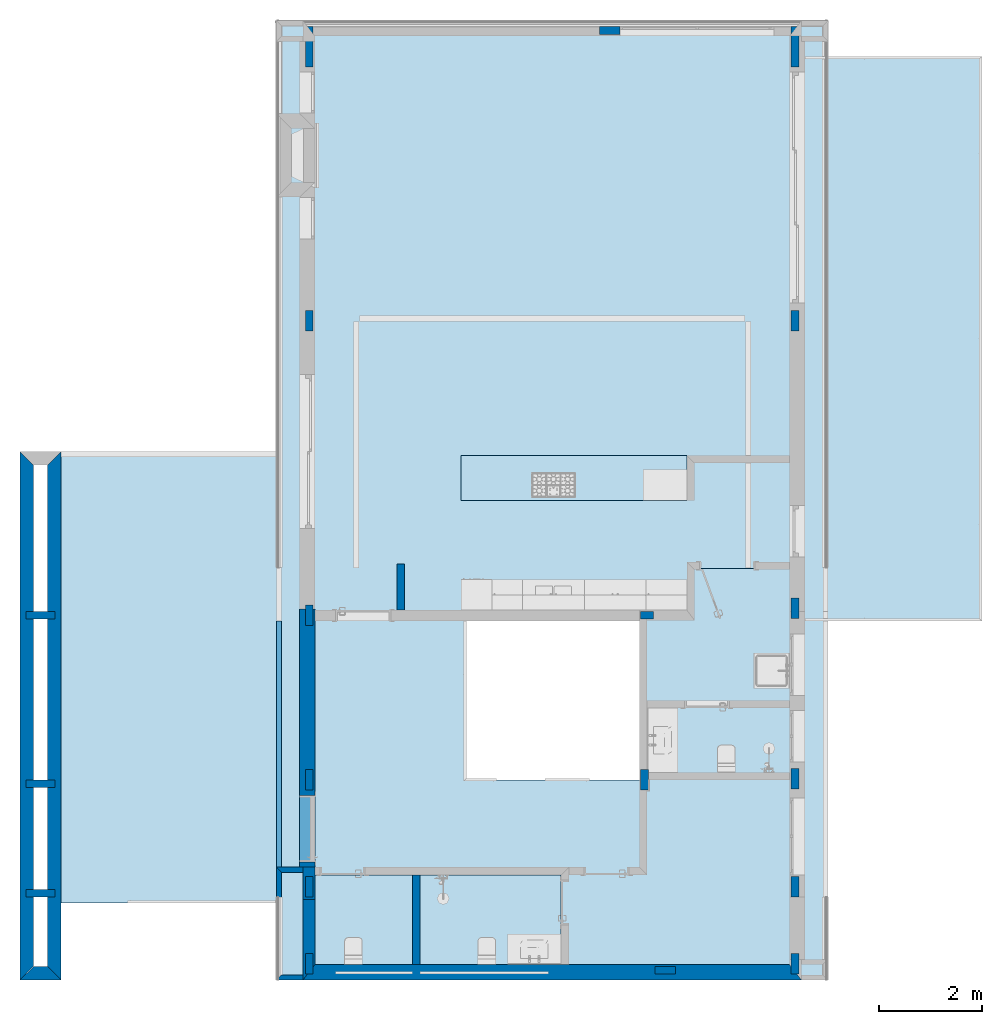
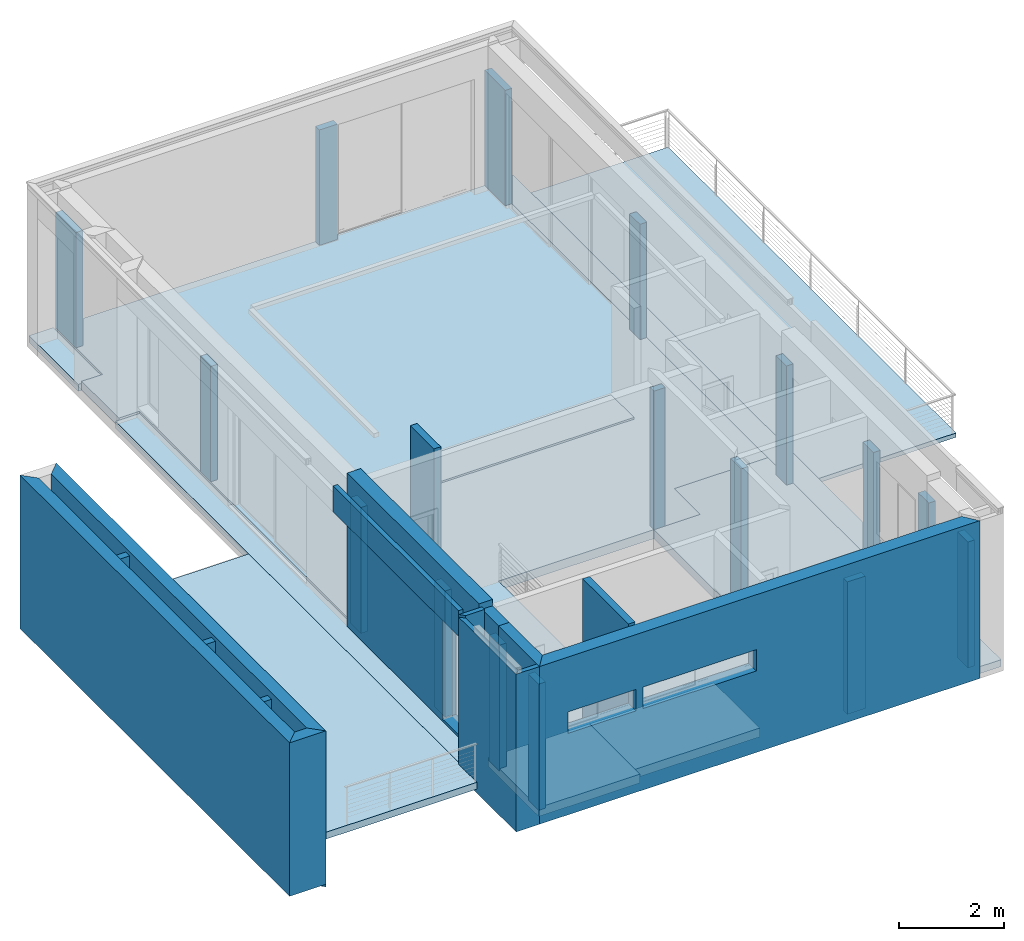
# One storey, part 1 of 26: 19 columns, 13 walls, 10 slabs, 3 openings.
"""IFC2X3 building model written with IfcOpenShell, lengths in millimetres."""

from ifc_helpers import new_model, entity, si_unit, converted_unit, money_unit, direction, frame, origin_with_axes, origin_2d_with_axis, place, context, subcontext, project, spatial, polyline, rectangle, outline, extrude, material, layer, layer_set, layer_usage, type_object, element, save


model = new_model("IFC2X3")

# Units and contexts
model_context = context("Model", 3, precision=1e-05, world=origin_with_axes(), true_north=direction((0.0, 1.0)))
body_context = subcontext(model_context, "Body", "Model", "MODEL_VIEW")
ifc_project = project(units=[si_unit("LENGTHUNIT", "METRE", prefix="MILLI"), si_unit("AREAUNIT", "SQUARE_METRE"), si_unit("VOLUMEUNIT", "CUBIC_METRE"), converted_unit("PLANEANGLEUNIT", "DEGREE", entity("IfcPlaneAngleMeasure", 0.0174532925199), si_unit("PLANEANGLEUNIT", "RADIAN"), dimensions=[0, 0, 0, 0, 0, 0, 0]), si_unit("SOLIDANGLEUNIT", "STERADIAN"), money_unit("USD"), converted_unit("TIMEUNIT", "Year", entity("IfcTimeMeasure", 31556926.0), si_unit("TIMEUNIT", "SECOND"), dimensions=[0, 0, 0, 0, 0, 0, 0]), si_unit("MASSUNIT", "GRAM"), si_unit("THERMODYNAMICTEMPERATUREUNIT", "DEGREE_CELSIUS"), si_unit("LUMINOUSINTENSITYUNIT", "LUMEN")], contexts=[model_context])

# Site, building, storey
site_placement = place(None, origin_with_axes())
site = spatial("IfcSite", under=ifc_project, at=site_placement, Name="Grove Residential", CompositionType="ELEMENT")
building_placement = place(site_placement, origin_with_axes())
building = spatial("IfcBuilding", under=site, at=building_placement, Name="Building", CompositionType="ELEMENT")
storey_placement = place(building_placement, origin_with_axes())
storey = spatial("IfcBuildingStorey", under=building, at=storey_placement, Name="Ground Floor", CompositionType="ELEMENT", Elevation=0.0)

# Columns
ifc_material_1 = material(Name="Concrete - Structural")
column_type_1 = type_object("IfcColumnType", Name="Concrete - Structural 150 x 400", PredefinedType="NOTDEFINED")
for number, where, z_axis, x_axis, name in (
    (1, (10109.9999055, 165.0, -60.0), (0.0, 0.0, 1.0), (1.0, 0.0, 0.0), "CRE - 001"),
    (2, (640.000123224, 3749.99996722, -60.0), (0.0, 0.0, 1.0), (1.0, 0.0, 0.0), "CRE - 001"),
):
    element("IfcColumn", number, at=place(storey_placement, frame(where, z_axis=z_axis, x_axis=x_axis)), inside=storey, type_object=column_type_1, material=ifc_material_1, Name=name, ObjectType="Concrete - Structural 150 x 400", context=body_context, shape_type="SweptSolid", body=[
        extrude(rectangle(XDim=150.0, YDim=400.0, at=origin_2d_with_axis()), origin_with_axes(), (0.0, 0.0, 1.0), 2940.0),
    ])
column_1_placement = place(storey_placement, frame((10109.9999055, 3774.99996722, -60.0), z_axis=(0.0, 0.0, 1.0), x_axis=(1.0, 0.0, 0.0)))
element("IfcColumn", 3, at=column_1_placement, inside=storey, type_object=column_type_1, material=ifc_material_1, Name="CRE - 001", ObjectType="Concrete - Structural 150 x 400", context=body_context, shape_type="SweptSolid", body=[
    extrude(rectangle(XDim=150.0, YDim=400.0, at=origin_2d_with_axis()), origin_with_axes(), (0.0, 0.0, 1.0), 2840.0),
])
for number, where, z_axis, x_axis, name in (
    (4, (639.999984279, 12700.0, 0.0), (0.0, 0.0, 1.0), (1.0, 0.0, 0.0), "CRE - 001"),
    (5, (10109.9999055, 12700.0, 0.0), (0.0, 0.0, 1.0), (1.0, 0.0, 0.0), "CRE - 001"),
):
    element("IfcColumn", number, at=place(storey_placement, frame(where, z_axis=z_axis, x_axis=x_axis)), inside=storey, type_object=column_type_1, material=ifc_material_1, Name=name, ObjectType="Concrete - Structural 150 x 400", context=body_context, shape_type="SweptSolid", body=[
        extrude(rectangle(XDim=150.0, YDim=400.0, at=origin_2d_with_axis()), origin_with_axes(), (0.0, 0.0, 1.0), 2690.0),
    ])
for number, where, z_axis, x_axis, name in (
    (6, (639.999984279, 1664.99992309, -60.0), (0.0, 0.0, 1.0), (1.0, 0.0, 0.0), "CRE - 001"),
    (7, (10109.9999055, 1664.99992309, -60.0), (0.0, 0.0, 1.0), (1.0, 0.0, 0.0), "CRE - 001"),
    (8, (639.99999327, 6960.0, -60.0), (0.0, 0.0, 1.0), (1.0, 0.0, 0.0), "CRE - 001"),
):
    element("IfcColumn", number, at=place(storey_placement, frame(where, z_axis=z_axis, x_axis=x_axis)), inside=storey, type_object=column_type_1, material=ifc_material_1, Name=name, ObjectType="Concrete - Structural 150 x 400", context=body_context, shape_type="SweptSolid", body=[
        extrude(rectangle(XDim=150.0, YDim=400.0, at=origin_2d_with_axis()), origin_with_axes(), (0.0, 0.0, 1.0), 2940.0),
    ])
column_2_placement = place(storey_placement, frame((10109.9999055, 7100.0, -60.0), z_axis=(0.0, 0.0, 1.0), x_axis=(1.0, 0.0, 0.0)))
element("IfcColumn", 9, at=column_2_placement, inside=storey, type_object=column_type_1, material=ifc_material_1, Name="CRE - 001", ObjectType="Concrete - Structural 150 x 400", context=body_context, shape_type="SweptSolid", body=[
    extrude(rectangle(XDim=150.0, YDim=400.0, at=origin_2d_with_axis()), origin_with_axes(), (0.0, 0.0, 1.0), 2840.0),
])
column_3_placement = place(storey_placement, frame((7175.0, 3749.99996722, 0.0), z_axis=(0.0, 0.0, 1.0), x_axis=(1.0, 0.0, 0.0)))
element("IfcColumn", 10, at=column_3_placement, inside=storey, type_object=column_type_1, material=ifc_material_1, Name="CRE - 001", ObjectType="Concrete - Structural 150 x 400", context=body_context, shape_type="SweptSolid", body=[
    extrude(rectangle(XDim=150.0, YDim=400.0, at=origin_2d_with_axis()), origin_with_axes(), (0.0, 0.0, 1.0), 3440.0),
])
column_4_placement = place(storey_placement, frame((639.99993667, 165.0, -60.0), z_axis=(0.0, 0.0, 1.0), x_axis=(1.0, 0.0, 0.0)))
element("IfcColumn", 11, at=column_4_placement, inside=storey, type_object=column_type_1, material=ifc_material_1, Name="CRE - 001", ObjectType="Concrete - Structural 150 x 400", context=body_context, shape_type="SweptSolid", body=[
    extrude(rectangle(XDim=150.0, YDim=400.0, at=origin_2d_with_axis()), origin_with_axes(), (0.0, 0.0, 1.0), 2940.0),
])
column_type_2 = type_object("IfcColumnType", Name="Concrete - Structural 570 x 150", PredefinedType="NOTDEFINED")
column_5_placement = place(storey_placement, frame((-4600.0, 6960.0, 0.0), z_axis=(0.0, 0.0, 1.0), x_axis=(1.0, 0.0, 0.0)))
element("IfcColumn", 12, at=column_5_placement, inside=storey, type_object=column_type_2, material=ifc_material_1, Name="CRE - 001", ObjectType="Concrete - Structural 570 x 150", context=body_context, shape_type="SweptSolid", body=[
    extrude(rectangle(XDim=570.0, YDim=150.0, at=origin_2d_with_axis()), origin_with_axes(), (0.0, 0.0, 1.0), 3440.0),
])
column_6_placement = place(storey_placement, frame((-4600.0, 1539.99992309, 0.0), z_axis=(0.0, 0.0, 1.0), x_axis=(1.0, 0.0, 0.0)))
element("IfcColumn", 13, at=column_6_placement, inside=storey, type_object=column_type_2, material=ifc_material_1, Name="CRE - 001", ObjectType="Concrete - Structural 570 x 150", context=body_context, shape_type="SweptSolid", body=[
    extrude(rectangle(XDim=570.0, YDim=150.0, at=origin_2d_with_axis()), origin_with_axes(), (0.0, 0.0, 1.0), 3380.0),
])
column_7_placement = place(storey_placement, frame((-4600.0, 3674.99996722, 0.0), z_axis=(0.0, 0.0, 1.0), x_axis=(1.0, 0.0, 0.0)))
element("IfcColumn", 14, at=column_7_placement, inside=storey, type_object=column_type_2, material=ifc_material_1, Name="CRE - 001", ObjectType="Concrete - Structural 570 x 150", context=body_context, shape_type="SweptSolid", body=[
    extrude(rectangle(XDim=570.0, YDim=150.0, at=origin_2d_with_axis()), origin_with_axes(), (0.0, 0.0, 1.0), 3440.0),
])
column_type_3 = type_object("IfcColumnType", Name="Concrete - Structural 150 x 785", PredefinedType="NOTDEFINED")
for number, where, z_axis, x_axis, name in (
    (15, (639.999984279, 18042.5, 0.0), (0.0, 0.0, 1.0), (1.0, 0.0, 0.0), "CRE - 001"),
    (16, (10109.9999055, 18042.5, 0.0), (0.0, 0.0, 1.0), (1.0, 0.0, 0.0), "CRE - 001"),
):
    element("IfcColumn", number, at=place(storey_placement, frame(where, z_axis=z_axis, x_axis=x_axis)), inside=storey, type_object=column_type_3, material=ifc_material_1, Name=name, ObjectType="Concrete - Structural 150 x 785", context=body_context, shape_type="SweptSolid", body=[
        extrude(rectangle(XDim=150.0, YDim=785.0, at=origin_2d_with_axis()), origin_with_axes(), (0.0, 0.0, 1.0), 2690.0),
    ])
column_type_4 = type_object("IfcColumnType", Name="Concrete - Structural 250 x 150", PredefinedType="NOTDEFINED")
column_8_placement = place(storey_placement, frame((7225.0, 6960.00013886, 0.0), z_axis=(0.0, 0.0, 1.0), x_axis=(1.0, 0.0, 0.0)))
element("IfcColumn", 17, at=column_8_placement, inside=storey, type_object=column_type_4, material=ifc_material_1, Name="CRE - 001", ObjectType="Concrete - Structural 250 x 150", context=body_context, shape_type="SweptSolid", body=[
    extrude(rectangle(XDim=250.0, YDim=150.0, at=origin_2d_with_axis()), origin_with_axes(), (0.0, 0.0, 1.0), 3230.0),
])
column_type_5 = type_object("IfcColumnType", Name="Concrete - Structural 400 x 150", PredefinedType="NOTDEFINED")
column_9_placement = place(storey_placement, frame((7575.0, 40.0, -210.0), z_axis=(0.0, 0.0, 1.0), x_axis=(1.0, 0.0, 0.0)))
element("IfcColumn", 18, at=column_9_placement, inside=storey, type_object=column_type_5, material=ifc_material_1, Name="CRE - 001", ObjectType="Concrete - Structural 400 x 150", context=body_context, shape_type="SweptSolid", body=[
    extrude(rectangle(XDim=400.0, YDim=150.0, at=origin_2d_with_axis()), origin_with_axes(), (0.0, 0.0, 1.0), 3090.0),
])
column_10_placement = place(storey_placement, frame((6500.0, 18360.0, -60.0), z_axis=(0.0, 0.0, 1.0), x_axis=(1.0, 0.0, 0.0)))
element("IfcColumn", 19, at=column_10_placement, inside=storey, type_object=column_type_5, material=ifc_material_1, Name="CRE - 001", ObjectType="Concrete - Structural 400 x 150", context=body_context, shape_type="SweptSolid", body=[
    extrude(rectangle(XDim=400.0, YDim=150.0, at=origin_2d_with_axis()), origin_with_axes(), (0.0, 0.0, 1.0), 2750.0),
])

# Slabs
ifc_material_2 = material(Name="Floor Tiles")
ifc_layer_1 = layer(ifc_material_2, 20.0, ventilated="UNKNOWN")
ifc_material_3 = material(Name="Screed")
ifc_layer_2 = layer(ifc_material_3, 40.0, ventilated="UNKNOWN")
ifc_layer_3 = layer(ifc_material_1, 150.0, ventilated="UNKNOWN")
ifc_layer_set_1 = layer_set([ifc_layer_1, ifc_layer_2, ifc_layer_3], Name="IFS - 008")
ifc_layer_usage_1 = layer_usage(ifc_layer_set_1, "AXIS3", "NEGATIVE", 210.0)
slab_type_1 = type_object("IfcSlabType", Name="IFS - 008 210", PredefinedType="FLOOR")
slab_1_placement = place(storey_placement, frame((564.99993667, -35.0, 0.0), z_axis=(0.0, 0.0, 1.0), x_axis=(1.0, 0.0, 0.0)))
element("IfcSlab", 20, at=slab_1_placement, inside=storey, type_object=slab_type_1, material=ifc_layer_usage_1, Name="SLA - 001", PredefinedType="FLOOR", context=body_context, shape_type="SweptSolid", body=[
    extrude(outline(polyline([(0.0, 0.0), (2235.00006333, 0.0), (2235.00006333, 1935.0), (0.0, 1935.0), (0.0, 0.0)])), frame((0.0, 0.0, -210.0), z_axis=(0.0, 0.0, 1.0), x_axis=(1.0, 0.0, 0.0)), (0.0, 0.0, 1.0), 210.0),
])
ifc_layer_usage_2 = layer_usage(ifc_layer_set_1, "AXIS3", "NEGATIVE", 210.0)
slab_2_placement = place(storey_placement, frame((2800.0, 150.0, 0.0), z_axis=(0.0, 0.0, 1.0), x_axis=(1.0, 0.0, 0.0)))
element("IfcSlab", 21, at=slab_2_placement, inside=storey, type_object=slab_type_1, material=ifc_layer_usage_2, Name="SLA - 001", PredefinedType="FLOOR", context=body_context, shape_type="SweptSolid", body=[
    extrude(outline(polyline([(0.0, 0.0), (2750.0, 0.0), (2750.0, 1750.0), (0.0, 1750.0), (0.0, 0.0)])), frame((0.0, 0.0, -210.0), z_axis=(0.0, 0.0, 1.0), x_axis=(1.0, 0.0, 0.0)), (0.0, 0.0, 1.0), 210.0),
])
ifc_layer_usage_3 = layer_usage(ifc_layer_set_1, "AXIS3", "NEGATIVE", 210.0)
slab_3_placement = place(storey_placement, frame((7100.0, 3875.0, 0.0), z_axis=(0.0, 0.0, 1.0), x_axis=(1.0, 0.0, 0.0)))
element("IfcSlab", 22, at=slab_3_placement, inside=storey, type_object=slab_type_1, material=ifc_layer_usage_3, Name="SLA - 001", PredefinedType="FLOOR", context=body_context, shape_type="SweptSolid", body=[
    extrude(outline(polyline([(0.0, 0.0), (3085.0, 0.0), (3085.0, 4000.0), (1025.00001609, 4000.0), (1024.99999986, 3010.00004387), (0.0, 3009.99999699), (0.0, 0.0)])), frame((0.0, 0.0, -210.0), z_axis=(0.0, 0.0, 1.0), x_axis=(1.0, 0.0, 0.0)), (0.0, 0.0, 1.0), 210.0),
])
ifc_material_4 = material(Name="Polished Concrete")
ifc_layer_4 = layer(ifc_material_4, 10.0, ventilated="UNKNOWN")
ifc_layer_5 = layer(ifc_material_3, 50.0, ventilated="UNKNOWN")
ifc_layer_6 = layer(ifc_material_1, 150.0, ventilated="UNKNOWN")
ifc_layer_set_2 = layer_set([ifc_layer_4, ifc_layer_5, ifc_layer_6], Name="IFS - 006")
ifc_layer_usage_4 = layer_usage(ifc_layer_set_2, "AXIS3", "NEGATIVE", 210.0)
slab_type_2 = type_object("IfcSlabType", Name="IFS - 006 210", PredefinedType="FLOOR")
slab_4_placement = place(storey_placement, frame((564.999940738, 16634.9997556, 0.0), z_axis=(0.0, 0.0, 1.0), x_axis=(1.0, 0.0, 0.0)))
element("IfcSlab", 23, at=slab_4_placement, inside=storey, type_object=slab_type_2, material=ifc_layer_usage_4, Name="SLA - 001", PredefinedType="FLOOR", context=body_context, shape_type="SweptSolid", body=[
    extrude(outline(polyline([(0.0, 0.0), (-459.999940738, 0.0), (-459.999940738, -1419.99957937), (0.0, -1419.99957937), (0.0, -14734.9998711), (4985.00033847, -14734.9998711), (4985.00033847, -16669.9996459), (9619.99989485, -16669.9996459), (9619.99989485, -12759.9997633), (6535.00010609, -12759.9997633), (6535.00010609, -12884.9997884), (3109.99997501, -12884.9997884), (3109.99997501, -9749.99975559), (7560.00005926, -9749.99975559), (7560.00005926, -8759.99975559), (9619.99989485, -8759.99975559), (9619.99989485, 1800.00012967), (0.0, 1800.00012967), (0.0, 0.0)])), frame((0.0, 0.0, -210.0), z_axis=(0.0, 0.0, 1.0), x_axis=(1.0, 0.0, 0.0)), (0.0, 0.0, 1.0), 210.0),
])
ifc_layer_7 = layer(ifc_material_4, 10.0, ventilated="UNKNOWN")
ifc_layer_8 = layer(ifc_material_3, 50.0, ventilated="UNKNOWN")
ifc_layer_9 = layer(ifc_material_1, 100.0, ventilated="UNKNOWN")
ifc_layer_set_3 = layer_set([ifc_layer_7, ifc_layer_8, ifc_layer_9], Name="IFS - 007")
ifc_layer_usage_5 = layer_usage(ifc_layer_set_3, "AXIS3", "NEGATIVE", 160.0)
slab_type_3 = type_object("IfcSlabType", Name="IFS - 007 160", PredefinedType="FLOOR")
slab_5_placement = place(storey_placement, frame((29.9999936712, 10120.0000894, -50.0), z_axis=(0.0, 0.0, 1.0), x_axis=(1.0, 0.0, 0.0)))
element("IfcSlab", 24, at=slab_5_placement, inside=storey, type_object=slab_type_3, material=ifc_layer_usage_5, Name="SLA - 001", PredefinedType="FLOOR", context=body_context, shape_type="SweptSolid", body=[
    extrude(outline(polyline([(0.0, 0.0), (-4229.99999367, 0.0), (-4229.99999367, -6270.00008941), (-4494.99999367, -6270.00008941), (-4494.99999367, -8769.99999255), (0.000226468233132, -8769.99999255), (0.0, 0.0)])), frame((0.0, 0.0, -160.0), z_axis=(0.0, 0.0, 1.0), x_axis=(1.0, 0.0, 0.0)), (0.0, 0.0, 1.0), 160.0),
])
ifc_layer_usage_6 = layer_usage(ifc_layer_set_3, "AXIS3", "NEGATIVE", 160.0)
slab_6_placement = place(storey_placement, frame((30.0, 18520.0, -50.0), z_axis=(0.0, 0.0, 1.0), x_axis=(1.0, 0.0, 0.0)))
element("IfcSlab", 25, at=slab_6_placement, inside=storey, type_object=slab_type_3, material=ifc_layer_usage_6, Name="SLA - 001", PredefinedType="FLOOR", context=body_context, shape_type="SweptSolid", body=[
    extrude(outline(polyline([(0.0, 0.0), (0.0, -1885.0), (534.999983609, -1885.0), (534.999983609, 0.0), (0.0, 0.0)])), frame((0.0, 0.0, -160.0), z_axis=(0.0, 0.0, 1.0), x_axis=(1.0, 0.0, 0.0)), (0.0, 0.0, 1.0), 160.0),
])
ifc_layer_usage_7 = layer_usage(ifc_layer_set_3, "AXIS3", "NEGATIVE", 160.0)
slab_7_placement = place(storey_placement, frame((10720.0, 18520.0, -50.0), z_axis=(0.0, 0.0, 1.0), x_axis=(1.0, 0.0, 0.0)))
element("IfcSlab", 26, at=slab_7_placement, inside=storey, type_object=slab_type_3, material=ifc_layer_usage_7, Name="SLA - 001", PredefinedType="FLOOR", context=body_context, shape_type="SweptSolid", body=[
    extrude(outline(polyline([(0.0, 0.0), (-485.0, 0.0), (-485.0, -85.0), (-535.0, -85.0), (-535.0, -18640.0), (0.0, -18640.0), (0.0, 0.0)])), frame((0.0, 0.0, -160.0), z_axis=(0.0, 0.0, 1.0), x_axis=(1.0, 0.0, 0.0)), (0.0, 0.0, 1.0), 160.0),
])
ifc_layer_usage_8 = layer_usage(ifc_layer_set_3, "AXIS3", "NEGATIVE", 160.0)
slab_8_placement = place(storey_placement, frame((564.999945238, 15215.0, -50.0), z_axis=(0.0, 0.0, 1.0), x_axis=(1.0, 0.0, 0.0)))
element("IfcSlab", 27, at=slab_8_placement, inside=storey, type_object=slab_type_3, material=ifc_layer_usage_8, Name="SLA - 001", PredefinedType="FLOOR", context=body_context, shape_type="SweptSolid", body=[
    extrude(outline(polyline([(0.0, 0.0), (-534.999945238, 0.0), (-534.999945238, -15335.0), (0.0, -15335.0), (0.0, 0.0)])), frame((0.0, 0.0, -160.0), z_axis=(0.0, 0.0, 1.0), x_axis=(1.0, 0.0, 0.0)), (0.0, 0.0, 1.0), 160.0),
])
ifc_material_5 = material(Name="Timber - Floor")
ifc_layer_10 = layer(ifc_material_5, 100.0, ventilated="UNKNOWN")
ifc_layer_set_4 = layer_set([ifc_layer_10], Name="Timber - Floor 100")
ifc_layer_usage_9 = layer_usage(ifc_layer_set_4, "AXIS3", "NEGATIVE", 100.0)
slab_type_4 = type_object("IfcSlabType", Name="Timber - Floor 100", PredefinedType="FLOOR")
slab_9_placement = place(storey_placement, frame((10720.0, 17850.0, -50.0), z_axis=(0.0, 0.0, 1.0), x_axis=(1.0, 0.0, 0.0)))
element("IfcSlab", 28, at=slab_9_placement, inside=storey, type_object=slab_type_4, material=ifc_layer_usage_9, Name="SLA - 001", PredefinedType="FLOOR", context=body_context, shape_type="SweptSolid", body=[
    extrude(outline(polyline([(0.0, 0.0), (0.0, -11000.0), (3030.0, -11000.0), (3030.0, 0.0), (0.0, 0.0)])), frame((0.0, 0.0, -100.0), z_axis=(0.0, 0.0, 1.0), x_axis=(1.0, 0.0, 0.0)), (0.0, 0.0, 1.0), 100.0),
])
ifc_material_6 = material(Name="Stone - Finish")
ifc_layer_11 = layer(ifc_material_6, 40.0, ventilated="UNKNOWN")
ifc_layer_set_5 = layer_set([ifc_layer_11], Name="Stone - Finish 40")
ifc_layer_usage_10 = layer_usage(ifc_layer_set_5, "AXIS3", "NEGATIVE", 40.0)
slab_type_5 = type_object("IfcSlabType", Name="Stone - Finish 40", PredefinedType="FLOOR")
slab_10_placement = place(storey_placement, frame((8000.0, 10075.0, 900.0), z_axis=(0.0, 0.0, 1.0), x_axis=(1.0, 0.0, 0.0)))
element("IfcSlab", 29, at=slab_10_placement, inside=storey, type_object=slab_type_5, material=ifc_layer_usage_10, Name="SLA - 001", PredefinedType="FLOOR", context=body_context, shape_type="SweptSolid", body=[
    extrude(outline(polyline([(0.0, 0.0), (-4400.0, 0.0), (-4400.0, -875.0), (0.0, -875.0), (0.0, 0.0)])), frame((0.0, 0.0, -40.0), z_axis=(0.0, 0.0, 1.0), x_axis=(1.0, 0.0, 0.0)), (0.0, 0.0, 1.0), 40.0),
])

# Walls
ifc_material_7 = material(Name="Wall Tiles")
ifc_layer_12 = layer(ifc_material_7, 12.5, ventilated="UNKNOWN")
ifc_material_8 = material(Name="Gypsum Plasterboard - Waterproof")
ifc_layer_13 = layer(ifc_material_8, 12.5, ventilated="UNKNOWN")
ifc_material_9 = material(Name="Air Space - Frame")
ifc_layer_14 = layer(ifc_material_9, 100.0, ventilated="UNKNOWN")
ifc_layer_15 = layer(ifc_material_8, 12.5, ventilated="UNKNOWN")
ifc_layer_16 = layer(ifc_material_7, 12.5, ventilated="UNKNOWN")
ifc_layer_set_6 = layer_set([ifc_layer_12, ifc_layer_13, ifc_layer_14, ifc_layer_15, ifc_layer_16], Name="IWF-006")
ifc_layer_usage_11 = layer_usage(ifc_layer_set_6, "AXIS2", "POSITIVE", -150.0)
wall_type_1 = type_object("IfcWallType", Name="IWF-006 150", PredefinedType="NOTDEFINED")
wall_1_placement = place(storey_placement, frame((2500.0, 7960.0, 0.0), z_axis=(0.0, 0.0, 1.0), x_axis=(0.0, -1.0, 0.0)))
element("IfcWallStandardCase", 30, at=wall_1_placement, inside=storey, type_object=wall_type_1, material=ifc_layer_usage_11, Name="SW - 002", context=body_context, shape_type="SweptSolid", body=[
    extrude(outline(polyline([(0.0, -150.0), (900.0, -150.0), (900.0, 0.0), (0.0, 0.0), (0.0, -150.0)])), origin_with_axes(), (0.0, 0.0, 1.0), 3440.0),
])
ifc_material_10 = material(Name="Stonework wall")
ifc_layer_17 = layer(ifc_material_10, 50.0, ventilated="UNKNOWN")
ifc_material_11 = material(Name="Air Space")
ifc_layer_18 = layer(ifc_material_11, 65.0, ventilated="UNKNOWN")
ifc_material_12 = material(Name="Concrete Block")
ifc_layer_19 = layer(ifc_material_12, 150.0, ventilated="UNKNOWN")
ifc_layer_set_7 = layer_set([ifc_layer_17, ifc_layer_18, ifc_layer_19], Name="EWF - 010")
ifc_layer_usage_12 = layer_usage(ifc_layer_set_7, "AXIS2", "POSITIVE", -115.0)
wall_type_2 = type_object("IfcWallType", Name="EWF - 010 265", PredefinedType="NOTDEFINED")
wall_2_placement = place(storey_placement, frame((-4315.0, -35.0, -110.0), z_axis=(0.0, 0.0, 1.0), x_axis=(0.0, 1.0, 0.0)))
element("IfcWallStandardCase", 31, at=wall_2_placement, inside=storey, type_object=wall_type_2, material=ifc_layer_usage_12, Name="SW - 001", context=body_context, shape_type="SweptSolid", body=[
    extrude(outline(polyline([(-115.0, -115.0), (10185.0, -115.0), (9920.0, 150.0), (150.0, 150.0), (-115.0, -115.0)])), origin_with_axes(), (0.0, 0.0, 1.0), 3640.0),
])
ifc_layer_usage_13 = layer_usage(ifc_layer_set_7, "AXIS2", "POSITIVE", -115.0)
wall_3_placement = place(storey_placement, frame((-4885.0, 10035.0, -50.0), z_axis=(0.0, 0.0, 1.0), x_axis=(0.0, -1.0, 0.0)))
element("IfcWallStandardCase", 32, at=wall_3_placement, inside=storey, type_object=wall_type_2, material=ifc_layer_usage_13, Name="SW - 003", context=body_context, shape_type="SweptSolid", body=[
    extrude(outline(polyline([(-115.0, -115.0), (10185.0, -115.0), (9920.0, 150.0), (150.0, 150.0), (-115.0, -115.0)])), origin_with_axes(), (0.0, 0.0, 1.0), 3580.0),
])
ifc_layer_usage_14 = layer_usage(ifc_layer_set_7, "AXIS2", "POSITIVE", -115.0)
wall_4_placement = place(storey_placement, frame((-4885.0, -35.0, -50.0), z_axis=(0.0, 0.0, 1.0), x_axis=(1.0, 0.0, 0.0)))
element("IfcWallStandardCase", 33, at=wall_4_placement, inside=storey, type_object=wall_type_2, material=ifc_layer_usage_14, Name="SW - 004", context=body_context, shape_type="SweptSolid", body=[
    extrude(outline(polyline([(-115.0, -115.0), (685.0, -115.0), (420.0, 150.0), (150.0, 150.0), (-115.0, -115.0)])), origin_with_axes(), (0.0, 0.0, 1.0), 3580.0),
])
ifc_material_13 = material(Name="Insulation - Plastic Soft")
ifc_layer_20 = layer(ifc_material_13, 50.0, ventilated="UNKNOWN")
ifc_layer_21 = layer(ifc_material_12, 150.0, ventilated="UNKNOWN")
ifc_material_14 = material(Name="Air Space - Fixing Zone")
ifc_layer_22 = layer(ifc_material_14, 10.0, ventilated="UNKNOWN")
ifc_material_15 = material(Name="Gypsum Plasterboard")
ifc_layer_23 = layer(ifc_material_15, 12.5, ventilated="UNKNOWN")
ifc_layer_24 = layer(ifc_material_15, 12.5, ventilated="UNKNOWN")
ifc_layer_set_8 = layer_set([ifc_layer_20, ifc_layer_21, ifc_layer_22, ifc_layer_23, ifc_layer_24], Name="EWF - 004")
ifc_layer_usage_15 = layer_usage(ifc_layer_set_8, "AXIS2", "NEGATIVE", 50.0)
wall_type_3 = type_object("IfcWallType", Name="EWF - 004 235", PredefinedType="NOTDEFINED")
wall_5_placement = place(storey_placement, frame((564.99993667, -35.0, 0.0), z_axis=(0.0, 0.0, 1.0), x_axis=(0.0, 1.0, 0.0)))
element("IfcWallStandardCase", 34, at=wall_5_placement, inside=storey, type_object=wall_type_3, material=ifc_layer_usage_15, Name="SW - 001", context=body_context, shape_type="SweptSolid", body=[
    extrude(outline(polyline([(185.0, -185.0), (1449.99992309, -185.0), (1449.99992309, 50.0), (-115.0, 50.0), (185.0, -185.0)])), origin_with_axes(), (0.0, 0.0, 1.0), 3380.0),
])
ifc_layer_usage_16 = layer_usage(ifc_layer_set_8, "AXIS2", "NEGATIVE", 50.0)
wall_6_placement = place(storey_placement, frame((564.99993667, 1414.99992309, 0.0), z_axis=(0.0, 0.0, 1.0), x_axis=(0.0, 1.0, 0.0)))
element("IfcWallStandardCase", 35, at=wall_6_placement, inside=storey, type_object=wall_type_3, material=ifc_layer_usage_16, Name="SW - 001", context=body_context, shape_type="SweptSolid", body=[
    extrude(outline(polyline([(0.0, -185.0), (635.000076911, -185.0), (635.000076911, 50.0), (0.0, 50.0), (0.0, -185.0)])), origin_with_axes(), (0.0, 0.0, 1.0), 3380.0),
])

# Wall, openings
ifc_material_16 = material(Name="External Render")
ifc_layer_25 = layer(ifc_material_16, 20.0, ventilated="UNKNOWN")
ifc_material_17 = material(Name="Cement Board")
ifc_layer_26 = layer(ifc_material_17, 10.0, ventilated="UNKNOWN")
ifc_layer_27 = layer(ifc_material_11, 35.0, ventilated="UNKNOWN")
ifc_layer_28 = layer(ifc_material_13, 50.0, ventilated="UNKNOWN")
ifc_layer_29 = layer(ifc_material_12, 150.0, ventilated="UNKNOWN")
ifc_layer_30 = layer(ifc_material_14, 10.0, ventilated="UNKNOWN")
ifc_layer_31 = layer(ifc_material_15, 12.5, ventilated="UNKNOWN")
ifc_layer_32 = layer(ifc_material_15, 12.5, ventilated="UNKNOWN")
ifc_layer_set_9 = layer_set([ifc_layer_25, ifc_layer_26, ifc_layer_27, ifc_layer_28, ifc_layer_29, ifc_layer_30, ifc_layer_31, ifc_layer_32], Name="EWF - 001")
ifc_layer_usage_17 = layer_usage(ifc_layer_set_9, "AXIS2", "NEGATIVE", 115.0)
wall_type_4 = type_object("IfcWallType", Name="EWF - 001 300", PredefinedType="NOTDEFINED")
wall_7_placement = place(storey_placement, frame((10185.0, -35.0, -300.0), z_axis=(0.0, 0.0, 1.0), x_axis=(-1.0, 0.0, 0.0)))
wall_7 = element("IfcWallStandardCase", 36, at=wall_7_placement, inside=storey, type_object=wall_type_4, material=ifc_layer_usage_17, Name="SW - 003", context=body_context, shape_type="SweptSolid", body=[
    extrude(outline(polyline([(185.0, -185.0), (9435.00006333, -185.0), (9670.00006333, 115.0), (-50.0, 115.0), (185.0, -185.0)])), origin_with_axes(), (0.0, 0.0, 1.0), 3680.0),
])
opening_1_placement = place(wall_7_placement, frame((6135.0, 0.0, 1900.0), z_axis=(0.0, 0.0, 1.0), x_axis=(1.0, 0.0, 0.0)))
element("IfcOpeningElement", 37, at=opening_1_placement, cuts=wall_7, Name="W.09", context=body_context, shape_type="SweptSolid", body=[
    extrude(rectangle(XDim=2500.0, YDim=500.0, at=origin_2d_with_axis()), frame((0.0, -5.0, 250.0), z_axis=(0.0, -1.0, 0.0), x_axis=(1.0, 0.0, 0.0)), (0.0, 0.0, 1.0), 480.0),
    extrude(rectangle(XDim=2500.0, YDim=500.0, at=origin_2d_with_axis()), frame((0.0, -5.0, 250.0), z_axis=(0.0, 1.0, 0.0), x_axis=(1.0, 0.0, 0.0)), (0.0, 0.0, 1.0), 420.0),
])
opening_2_placement = place(wall_7_placement, frame((8285.0, 0.0, 1900.0), z_axis=(0.0, 0.0, 1.0), x_axis=(1.0, 0.0, 0.0)))
element("IfcOpeningElement", 38, at=opening_2_placement, cuts=wall_7, Name="W.07", context=body_context, shape_type="SweptSolid", body=[
    extrude(rectangle(XDim=1500.0, YDim=500.0, at=origin_2d_with_axis()), frame((0.0, -5.0, 250.0), z_axis=(0.0, -1.0, 0.0), x_axis=(1.0, 0.0, 0.0)), (0.0, 0.0, 1.0), 480.0),
    extrude(rectangle(XDim=1500.0, YDim=500.0, at=origin_2d_with_axis()), frame((0.0, -5.0, 250.0), z_axis=(0.0, 1.0, 0.0), x_axis=(1.0, 0.0, 0.0)), (0.0, 0.0, 1.0), 420.0),
])

# Walls
ifc_layer_33 = layer(ifc_material_7, 12.5, ventilated="UNKNOWN")
ifc_layer_34 = layer(ifc_material_8, 12.5, ventilated="UNKNOWN")
ifc_layer_35 = layer(ifc_material_9, 50.0, ventilated="UNKNOWN")
ifc_material_18 = material(Name="Insulation - Mineral Soft")
ifc_layer_36 = layer(ifc_material_18, 50.0, ventilated="UNKNOWN")
ifc_layer_37 = layer(ifc_material_8, 12.5, ventilated="UNKNOWN")
ifc_layer_38 = layer(ifc_material_7, 12.5, ventilated="UNKNOWN")
ifc_layer_set_10 = layer_set([ifc_layer_33, ifc_layer_34, ifc_layer_35, ifc_layer_36, ifc_layer_37, ifc_layer_38], Name="IWF-003")
ifc_layer_usage_18 = layer_usage(ifc_layer_set_10, "AXIS2", "POSITIVE", -150.0)
wall_type_5 = type_object("IfcWallType", Name="IWF-003 150", PredefinedType="NOTDEFINED")
wall_8_placement = place(storey_placement, frame((2650.0, -35.0, 0.0), z_axis=(0.0, 0.0, 1.0), x_axis=(0.0, 1.0, 0.0)))
element("IfcWallStandardCase", 39, at=wall_8_placement, inside=storey, type_object=wall_type_5, material=ifc_layer_usage_18, Name="SW - 001", context=body_context, shape_type="SweptSolid", body=[
    extrude(outline(polyline([(185.0, -150.0), (1935.0, -150.0), (1935.0, 0.0), (185.0, 0.0), (185.0, -150.0)])), origin_with_axes(), (0.0, 0.0, 1.0), 3440.0),
])
ifc_layer_39 = layer(ifc_material_16, 20.0, ventilated="UNKNOWN")
ifc_layer_40 = layer(ifc_material_17, 10.0, ventilated="UNKNOWN")
ifc_layer_41 = layer(ifc_material_9, 70.0, ventilated="UNKNOWN")
ifc_layer_set_11 = layer_set([ifc_layer_39, ifc_layer_40, ifc_layer_41], Name="EWF - 003")
ifc_layer_usage_19 = layer_usage(ifc_layer_set_11, "AXIS2", "NEGATIVE", 115.0)
wall_type_6 = type_object("IfcWallType", Name="EWF - 003 100", PredefinedType="NOTDEFINED")
wall_9_placement = place(storey_placement, frame((564.99993667, -35.0, -300.0), z_axis=(0.0, 0.0, 1.0), x_axis=(-1.0, 0.0, 0.0)))
element("IfcWallStandardCase", 40, at=wall_9_placement, inside=storey, type_object=wall_type_6, material=ifc_layer_usage_19, Name="SW - 001", context=body_context, shape_type="SweptSolid", body=[
    extrude(outline(polyline([(50.0, 15.0), (464.99993667, 15.0), (564.99993667, 115.0), (50.0, 115.0), (50.0, 15.0)])), origin_with_axes(), (0.0, 0.0, 1.0), 3680.0),
])
ifc_layer_usage_20 = layer_usage(ifc_layer_set_11, "AXIS2", "NEGATIVE", 115.0)
wall_10_placement = place(storey_placement, frame((115.0, -35.0, -300.0), z_axis=(0.0, 0.0, 1.0), x_axis=(0.0, 1.0, 0.0)))
element("IfcWallStandardCase", 41, at=wall_10_placement, inside=storey, type_object=wall_type_6, material=ifc_layer_usage_20, Name="SW - 001", context=body_context, shape_type="SweptSolid", body=[
    extrude(outline(polyline([(-15.0, 15.0), (1985.0, 15.0), (2085.0, 115.0), (-115.0, 115.0), (-15.0, 15.0)])), origin_with_axes(), (0.0, 0.0, 1.0), 3680.0),
])
ifc_layer_usage_21 = layer_usage(ifc_layer_set_11, "AXIS2", "NEGATIVE", 115.0)
wall_11_placement = place(storey_placement, frame((115.0, 1935.0, -50.0), z_axis=(0.0, 0.0, 1.0), x_axis=(1.0, 0.0, 0.0)))
element("IfcWallStandardCase", 42, at=wall_11_placement, inside=storey, type_object=wall_type_6, material=ifc_layer_usage_21, Name="SW - 002", context=body_context, shape_type="SweptSolid", body=[
    extrude(outline(polyline([(-15.0, 15.0), (399.99993667, 15.0), (399.99993667, 115.0), (-115.0, 115.0), (-15.0, 15.0)])), origin_with_axes(), (0.0, 0.0, 1.0), 3490.0),
])

# Wall, opening
ifc_material_19 = material(Name="Timber - External Cladding")
ifc_layer_42 = layer(ifc_material_19, 40.0, ventilated="UNKNOWN")
ifc_layer_43 = layer(ifc_material_14, 25.0, ventilated="UNKNOWN")
ifc_layer_44 = layer(ifc_material_13, 50.0, ventilated="UNKNOWN")
ifc_layer_45 = layer(ifc_material_12, 150.0, ventilated="UNKNOWN")
ifc_layer_46 = layer(ifc_material_14, 10.0, ventilated="UNKNOWN")
ifc_layer_47 = layer(ifc_material_15, 12.5, ventilated="UNKNOWN")
ifc_layer_48 = layer(ifc_material_15, 12.5, ventilated="UNKNOWN")
ifc_layer_set_12 = layer_set([ifc_layer_42, ifc_layer_43, ifc_layer_44, ifc_layer_45, ifc_layer_46, ifc_layer_47, ifc_layer_48], Name="EWF - 002")
ifc_layer_usage_22 = layer_usage(ifc_layer_set_12, "AXIS2", "NEGATIVE", 115.0)
wall_type_7 = type_object("IfcWallType", Name="EWF - 002 300", PredefinedType="NOTDEFINED")
wall_12_placement = place(storey_placement, frame((564.99993667, 2050.0, -50.0), z_axis=(0.0, 0.0, 1.0), x_axis=(0.0, 1.0, 0.0)))
wall_12 = element("IfcWallStandardCase", 43, at=wall_12_placement, inside=storey, type_object=wall_type_7, material=ifc_layer_usage_22, Name="SW - 001", context=body_context, shape_type="SweptSolid", body=[
    extrude(outline(polyline([(0.0, -185.0), (5035.00000687, -185.0), (5035.00000687, 115.0), (0.0, 115.0), (0.0, -185.0)])), origin_with_axes(), (0.0, 0.0, 1.0), 3580.0),
])
opening_3_placement = place(wall_12_placement, frame((750.0, 0.0, 50.0), z_axis=(0.0, 0.0, 1.0), x_axis=(1.0, 0.0, 0.0)))
element("IfcOpeningElement", 44, at=opening_3_placement, cuts=wall_12, Name="D.05", context=body_context, shape_type="SweptSolid", body=[
    extrude(rectangle(XDim=1300.0, YDim=2700.0, at=origin_2d_with_axis()), frame((0.0, -300.0, 1350.0), z_axis=(0.0, -1.0, 0.0), x_axis=(1.0, 0.0, 0.0)), (0.0, 0.0, -1.0), 900.0),
    extrude(rectangle(XDim=1444.0, YDim=2772.0, at=origin_2d_with_axis()), frame((0.0, -185.0, 1386.0), z_axis=(0.0, -1.0, 0.0), x_axis=(1.0, 0.0, 0.0)), (0.0, 0.0, 1.0), 300.0),
])

# Wall
ifc_layer_49 = layer(ifc_material_16, 20.0, ventilated="UNKNOWN")
ifc_layer_50 = layer(ifc_material_17, 10.0, ventilated="UNKNOWN")
ifc_layer_51 = layer(ifc_material_11, 35.0, ventilated="UNKNOWN")
ifc_layer_52 = layer(ifc_material_14, 10.0, ventilated="UNKNOWN")
ifc_layer_53 = layer(ifc_material_15, 12.5, ventilated="UNKNOWN")
ifc_layer_54 = layer(ifc_material_15, 12.5, ventilated="UNKNOWN")
ifc_layer_set_13 = layer_set([ifc_layer_49, ifc_layer_50, ifc_layer_51, ifc_layer_52, ifc_layer_53, ifc_layer_54], Name="EWF - 012")
ifc_layer_usage_23 = layer_usage(ifc_layer_set_13, "AXIS2", "POSITIVE", -1.38777878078e-14)
wall_type_8 = type_object("IfcWallType", Name="EWF - 012 100", PredefinedType="NOTDEFINED")
wall_13_placement = place(storey_placement, frame((0.0, 6850.0, 2930.0), z_axis=(0.0, 0.0, 1.0), x_axis=(0.0, -1.0, 0.0)))
element("IfcWallStandardCase", 45, at=wall_13_placement, inside=storey, type_object=wall_type_8, material=ifc_layer_usage_23, Name="SW - 001", context=body_context, shape_type="SweptSolid", body=[
    extrude(outline(polyline([(0.0, 0.0), (4800.0, 0.0), (4800.0, 100.0), (0.0, 100.0), (0.0, 0.0)])), origin_with_axes(), (0.0, 0.0, 1.0), 600.0),
])

save(model, "model.ifc")
